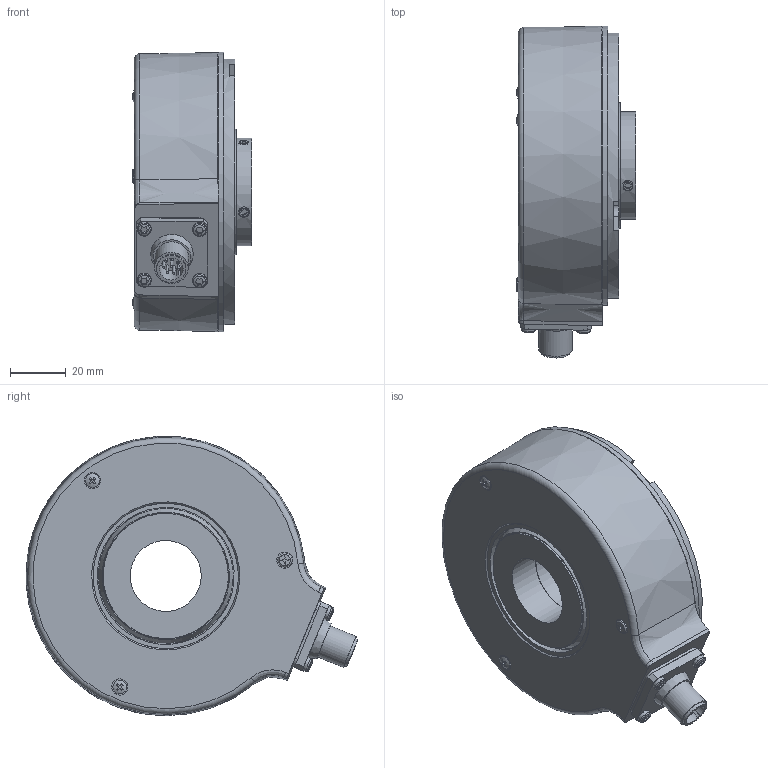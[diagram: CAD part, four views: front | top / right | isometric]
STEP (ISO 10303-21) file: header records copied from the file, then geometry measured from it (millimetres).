
FILE_DESCRIPTION (( 'STEP AP203' ), '1' );
FILE_NAME ('8.A020.14XE.XXXX.STEP', '2013-07-08T13:31:31', ( 'Hodot' ), ( '' ), 'SwSTEP 2.0', 'SolidWorks 2012', '' );
FILE_SCHEMA (( 'CONFIG_CONTROL_DESIGN' ));
Length unit declared in the file: millimetre
Products named in the file (1): 8.A020.14XE.XXXX
Bounding box: 42.6 x 118.73 x 99.95 mm (x, y, z)
Volume: 180256.1 mm3; surface area: 98249.4 mm2
Topology: 21 solids, 21 shells, 596 faces, 1507 edges, 1009 vertices
Faces by surface type: plane 290, cylinder 144, cone 66, sphere 62, torus 30, bspline 4
Full cylindrical faces by diameter (mm): 0.8 x8, 2.05 x5, 2.5 x23, 2.6 x3, 2.7 x4, 2.8 x4, 3 x7, 3.04 x3, 3.3 x5, 4 x2, 5 x6, 5.8 x3, 10.5 x2, 12 x1, 20 x1, 20.5 x1, 25.4 x2, 25.7 x1, 26.2 x1, 27 x3, 38.5 x1, 44.8 x1, 45 x4, 48 x1, 48.7 x2, 49 x3, 52 x2, 54.5 x2, 56 x2, 58 x3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
Entity records: 19811 total; most frequent: CARTESIAN_POINT 7106, DIRECTION 2594, ORIENTED_EDGE 2134, EDGE_LOOP 1077, EDGE_CURVE 1067, AXIS2_PLACEMENT_3D 1056, VERTEX_POINT 844, FACE_OUTER_BOUND 791
